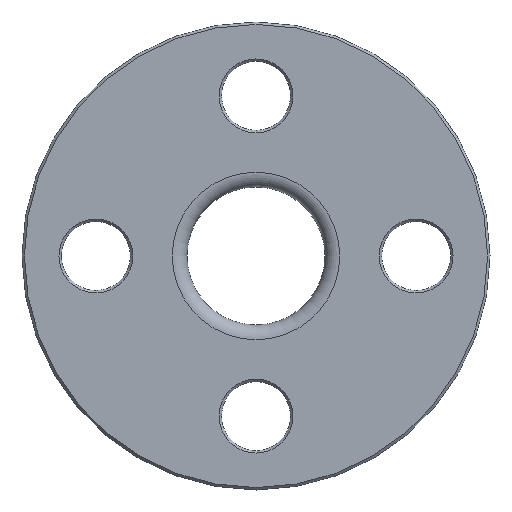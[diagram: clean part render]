
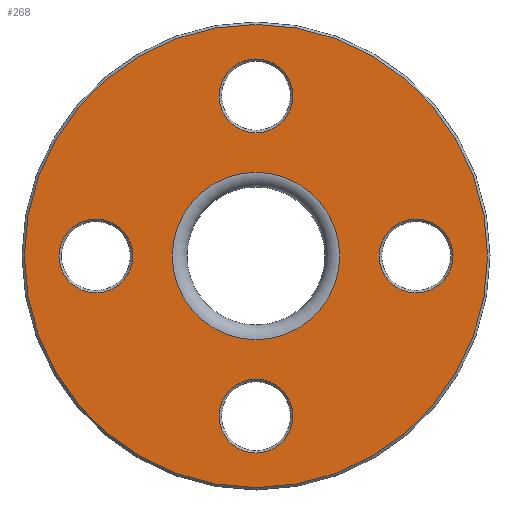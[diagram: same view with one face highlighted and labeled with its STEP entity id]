
A CAD part, front view. The second image highlights one B-rep face of the part: STEP entity #268.
In plain terms, the highlighted planar face has unit normal (0, -1, 0).
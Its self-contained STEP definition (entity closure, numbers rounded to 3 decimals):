
#23=PLANE('',#320);
#62=ORIENTED_EDGE('',*,*,#101,.T.);
#63=ORIENTED_EDGE('',*,*,#102,.T.);
#64=ORIENTED_EDGE('',*,*,#84,.T.);
#65=ORIENTED_EDGE('',*,*,#88,.T.);
#66=ORIENTED_EDGE('',*,*,#92,.T.);
#67=ORIENTED_EDGE('',*,*,#103,.T.);
#84=EDGE_CURVE('',#108,#108,#132,.T.);
#88=EDGE_CURVE('',#112,#112,#136,.T.);
#92=EDGE_CURVE('',#116,#116,#140,.T.);
#101=EDGE_CURVE('',#125,#125,#149,.F.);
#102=EDGE_CURVE('',#126,#126,#150,.T.);
#103=EDGE_CURVE('',#127,#127,#151,.T.);
#108=VERTEX_POINT('',#431);
#112=VERTEX_POINT('',#442);
#116=VERTEX_POINT('',#453);
#125=VERTEX_POINT('',#476);
#126=VERTEX_POINT('',#478);
#127=VERTEX_POINT('',#480);
#132=CIRCLE('',#293,7.5);
#136=CIRCLE('',#300,7.5);
#140=CIRCLE('',#307,7.5);
#149=CIRCLE('',#321,47.);
#150=CIRCLE('',#322,17.);
#151=CIRCLE('',#323,7.5);
#182=EDGE_LOOP('',(#62));
#183=EDGE_LOOP('',(#63));
#184=EDGE_LOOP('',(#64));
#185=EDGE_LOOP('',(#65));
#186=EDGE_LOOP('',(#66));
#187=EDGE_LOOP('',(#67));
#230=FACE_BOUND('',#182,.T.);
#231=FACE_BOUND('',#183,.T.);
#232=FACE_BOUND('',#184,.T.);
#233=FACE_BOUND('',#185,.T.);
#234=FACE_BOUND('',#186,.T.);
#235=FACE_BOUND('',#187,.T.);
#268=ADVANCED_FACE('',(#230,#231,#232,#233,#234,#235),#23,.F.);
#293=AXIS2_PLACEMENT_3D('',#430,#343,#344);
#300=AXIS2_PLACEMENT_3D('',#441,#357,#358);
#307=AXIS2_PLACEMENT_3D('',#452,#371,#372);
#320=AXIS2_PLACEMENT_3D('',#474,#397,#398);
#321=AXIS2_PLACEMENT_3D('',#475,#399,#400);
#322=AXIS2_PLACEMENT_3D('',#477,#401,#402);
#323=AXIS2_PLACEMENT_3D('',#479,#403,#404);
#343=DIRECTION('',(0.,1.,0.));
#344=DIRECTION('',(0.,0.,1.));
#357=DIRECTION('',(0.,1.,0.));
#358=DIRECTION('',(-1.,0.,0.));
#371=DIRECTION('',(0.,1.,0.));
#372=DIRECTION('',(0.,0.,-1.));
#397=DIRECTION('',(0.,1.,0.));
#398=DIRECTION('',(0.,0.,1.));
#399=DIRECTION('',(0.,1.,0.));
#400=DIRECTION('',(0.,0.,1.));
#401=DIRECTION('',(0.,1.,0.));
#402=DIRECTION('',(0.,0.,1.));
#403=DIRECTION('',(0.,1.,0.));
#404=DIRECTION('',(1.,0.,0.));
#430=CARTESIAN_POINT('',(-32.5,0.,0.));
#431=CARTESIAN_POINT('',(-32.5,0.,7.5));
#441=CARTESIAN_POINT('',(0.,0.,-32.5));
#442=CARTESIAN_POINT('',(-7.5,0.,-32.5));
#452=CARTESIAN_POINT('',(32.5,0.,0.));
#453=CARTESIAN_POINT('',(32.5,0.,-7.5));
#474=CARTESIAN_POINT('',(0.,0.,0.));
#475=CARTESIAN_POINT('',(0.,0.,0.));
#476=CARTESIAN_POINT('',(0.,0.,47.));
#477=CARTESIAN_POINT('',(0.,0.,0.));
#478=CARTESIAN_POINT('',(0.,0.,17.));
#479=CARTESIAN_POINT('',(0.,0.,32.5));
#480=CARTESIAN_POINT('',(7.5,0.,32.5));
